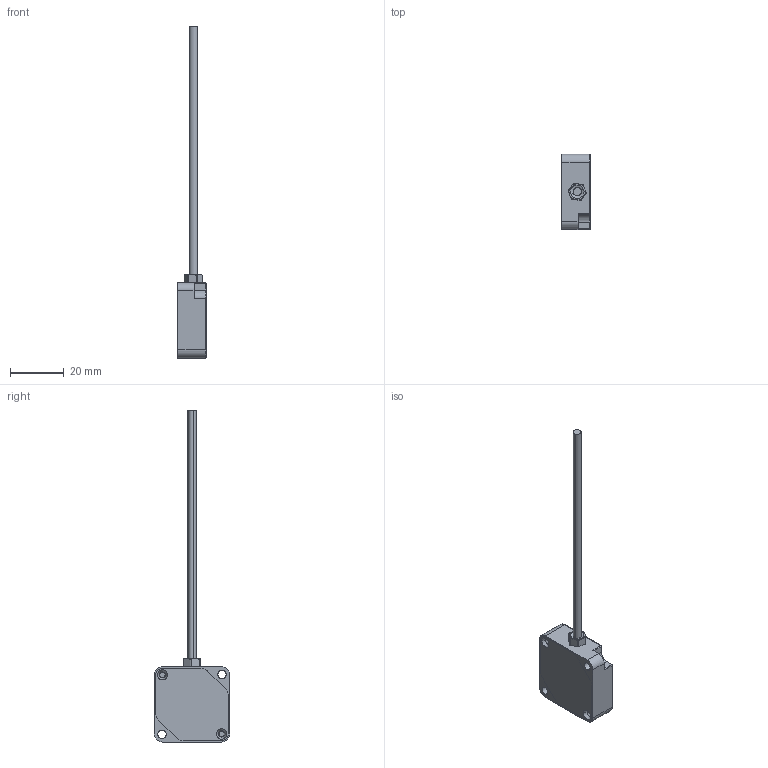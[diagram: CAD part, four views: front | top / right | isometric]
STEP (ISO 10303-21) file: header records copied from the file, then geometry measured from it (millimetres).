
FILE_DESCRIPTION (( 'STEP AP203' ), '1' );
FILE_NAME ('DATA10_0912_旳眻.STEP', '2023-09-12T06:12:16', ( '' ), ( '' ), 'SwSTEP 2.0', 'SolidWorks 2022', '' );
FILE_SCHEMA (( 'CONFIG_CONTROL_DESIGN' ));
Length unit declared in the file: millimetre
Products named in the file (6): New_Navigation_Up; Gland_Nut_0724; DATA10_0912_旳眻; New_Navigation_Omg10_荂豪_DATA20; New_Navigation_Omg10_2; omg10_滅阨盄_0906
Assembly tree (5 placements, depth 2):
  DATA10_0912_旳眻
    New_Navigation_Omg10_2
    Gland_Nut_0724
    New_Navigation_Up
    New_Navigation_Omg10_荂豪_DATA20
    omg10_滅阨盄_0906
Bounding box: 10.51 x 28 x 123.65 mm (x, y, z)
Volume: 4206.2 mm3; surface area: 6764 mm2
Topology: 155 solids, 155 shells, 1896 faces, 4689 edges, 3108 vertices
Faces by surface type: plane 1357, bspline 387, cylinder 124, torus 14, cone 10, sphere 4
Entity records: 74594 total; most frequent: CARTESIAN_POINT 31489, ORIENTED_EDGE 9370, DIRECTION 7193, EDGE_CURVE 4685, VECTOR 3623, LINE 3623, VERTEX_POINT 3108, EDGE_LOOP 1971
